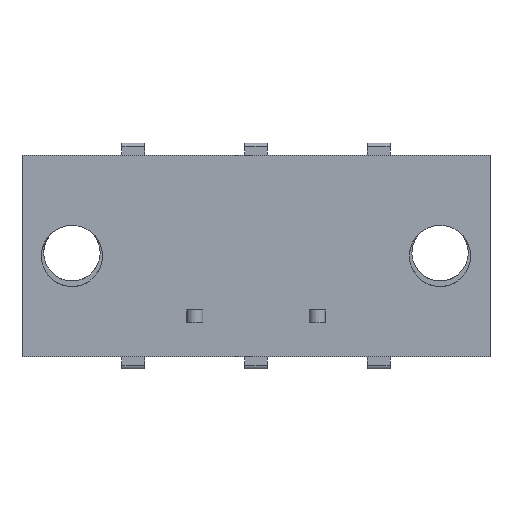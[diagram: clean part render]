
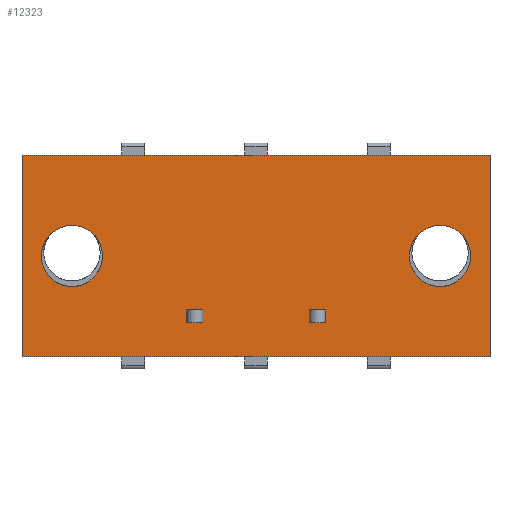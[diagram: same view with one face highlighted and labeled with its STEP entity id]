
A CAD part, front view. The second image highlights one B-rep face of the part: STEP entity #12323.
In plain terms, the highlighted planar face has unit normal (0, -1, 0).
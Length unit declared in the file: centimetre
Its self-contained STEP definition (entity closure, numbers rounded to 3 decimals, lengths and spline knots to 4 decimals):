
#587=PLANE('',#20139);
#1012=CIRCLE('',#19882,0.19);
#1102=CIRCLE('',#20140,0.19);
#1109=VERTEX_POINT('',#14927);
#1110=VERTEX_POINT('',#14928);
#1117=VERTEX_POINT('',#14944);
#1131=VERTEX_POINT('',#14975);
#1636=VERTEX_POINT('',#17036);
#1637=VERTEX_POINT('',#17038);
#1638=VERTEX_POINT('',#17042);
#1903=VERTEX_POINT('',#17929);
#1904=VERTEX_POINT('',#17930);
#1907=VERTEX_POINT('',#17938);
#1910=VERTEX_POINT('',#17950);
#1951=VERTEX_POINT('',#18072);
#1953=VERTEX_POINT('',#18079);
#1954=VERTEX_POINT('',#18081);
#2292=VECTOR('',#12614,1.);
#2300=VECTOR('',#12623,1.);
#2314=VECTOR('',#12641,1.);
#2317=VECTOR('',#12649,1.);
#2892=VECTOR('',#13573,1.);
#3184=VECTOR('',#14201,1.);
#3188=VECTOR('',#14206,1.);
#3192=VECTOR('',#14218,1.);
#3194=VECTOR('',#14221,1.);
#3242=VECTOR('',#14315,1.);
#3246=VECTOR('',#14322,1.);
#3247=VECTOR('',#14323,1.);
#3656=LINE('',#14926,#2292);
#3664=LINE('',#14943,#2300);
#3678=LINE('',#14974,#2314);
#3681=LINE('',#14982,#2317);
#4256=LINE('',#17037,#2892);
#4548=LINE('',#17928,#3184);
#4552=LINE('',#17937,#3188);
#4556=LINE('',#17949,#3192);
#4558=LINE('',#17953,#3194);
#4606=LINE('',#18071,#3242);
#4610=LINE('',#18080,#3246);
#4611=LINE('',#18082,#3247);
#5024=EDGE_CURVE('',#1109,#1110,#3656,.T.);
#5032=EDGE_CURVE('',#1117,#1109,#3664,.T.);
#5047=EDGE_CURVE('',#1110,#1131,#3678,.T.);
#5051=EDGE_CURVE('',#1131,#1117,#3681,.T.);
#5813=EDGE_CURVE('',#1637,#1636,#4256,.T.);
#5815=EDGE_CURVE('',#1638,#1638,#1012,.T.);
#6218=EDGE_CURVE('',#1903,#1904,#4548,.T.);
#6222=EDGE_CURVE('',#1907,#1903,#4552,.T.);
#6228=EDGE_CURVE('',#1910,#1907,#4556,.T.);
#6230=EDGE_CURVE('',#1904,#1910,#4558,.T.);
#6289=EDGE_CURVE('',#1951,#1636,#4606,.T.);
#6293=EDGE_CURVE('',#1953,#1953,#1102,.T.);
#6294=EDGE_CURVE('',#1954,#1637,#4610,.T.);
#6295=EDGE_CURVE('',#1954,#1951,#4611,.T.);
#9291=ORIENTED_EDGE('',*,*,#5032,.T.);
#9292=ORIENTED_EDGE('',*,*,#5024,.T.);
#9293=ORIENTED_EDGE('',*,*,#5047,.T.);
#9294=ORIENTED_EDGE('',*,*,#5051,.T.);
#9295=ORIENTED_EDGE('',*,*,#5815,.T.);
#9296=ORIENTED_EDGE('',*,*,#6293,.T.);
#9297=ORIENTED_EDGE('',*,*,#6222,.F.);
#9298=ORIENTED_EDGE('',*,*,#6228,.F.);
#9299=ORIENTED_EDGE('',*,*,#6230,.F.);
#9300=ORIENTED_EDGE('',*,*,#6218,.F.);
#9301=ORIENTED_EDGE('',*,*,#6294,.T.);
#9302=ORIENTED_EDGE('',*,*,#5813,.T.);
#9303=ORIENTED_EDGE('',*,*,#6289,.F.);
#9304=ORIENTED_EDGE('',*,*,#6295,.F.);
#10895=EDGE_LOOP('',(#9291,#9292,#9293,#9294));
#10896=EDGE_LOOP('',(#9295));
#10897=EDGE_LOOP('',(#9296));
#10898=EDGE_LOOP('',(#9297,#9298,#9299,#9300));
#10899=EDGE_LOOP('',(#9301,#9302,#9303,#9304));
#11629=FACE_BOUND('',#10895,.T.);
#11630=FACE_BOUND('',#10896,.T.);
#11631=FACE_BOUND('',#10897,.T.);
#11632=FACE_BOUND('',#10898,.T.);
#11633=FACE_BOUND('',#10899,.T.);
#12323=ADVANCED_FACE('',(#11629,#11630,#11631,#11632,#11633),#587,.T.);
#12614=DIRECTION('',(0.,0.,1.));
#12623=DIRECTION('',(-1.,0.,0.));
#12641=DIRECTION('',(1.,0.,0.));
#12649=DIRECTION('',(0.,0.,-1.));
#13573=DIRECTION('',(0.,0.,1.));
#13577=DIRECTION('',(0.,1.,0.));
#13578=DIRECTION('',(0.19,0.,0.));
#14201=DIRECTION('',(0.,0.,1.));
#14206=DIRECTION('',(1.,0.,0.));
#14218=DIRECTION('',(0.,0.,-1.));
#14221=DIRECTION('',(-1.,0.,0.));
#14315=DIRECTION('',(1.,0.,0.));
#14319=DIRECTION('',(0.,-1.,0.));
#14320=DIRECTION('',(0.,1.,0.));
#14321=DIRECTION('',(0.19,0.,0.));
#14322=DIRECTION('',(1.,0.,0.));
#14323=DIRECTION('',(0.,0.,1.));
#14926=CARTESIAN_POINT('',(0.712,-0.53,-0.1875));
#14927=CARTESIAN_POINT('',(0.712,-0.53,-0.415));
#14928=CARTESIAN_POINT('',(0.712,-0.53,-0.335));
#14943=CARTESIAN_POINT('',(0.155,-0.53,-0.415));
#14944=CARTESIAN_POINT('',(0.812,-0.53,-0.415));
#14974=CARTESIAN_POINT('',(0.155,-0.53,-0.335));
#14975=CARTESIAN_POINT('',(0.812,-0.53,-0.335));
#14982=CARTESIAN_POINT('',(0.812,-0.53,-0.1875));
#17036=CARTESIAN_POINT('',(1.834,-0.53,0.625));
#17037=CARTESIAN_POINT('',(1.834,-0.53,-0.625));
#17038=CARTESIAN_POINT('',(1.834,-0.53,-0.625));
#17041=CARTESIAN_POINT('',(1.524,-0.53,0.));
#17042=CARTESIAN_POINT('',(1.334,-0.53,0.));
#17928=CARTESIAN_POINT('',(0.05,-0.53,-0.1875));
#17929=CARTESIAN_POINT('',(0.05,-0.53,-0.415));
#17930=CARTESIAN_POINT('',(0.05,-0.53,-0.335));
#17937=CARTESIAN_POINT('',(-0.155,-0.53,-0.415));
#17938=CARTESIAN_POINT('',(-0.05,-0.53,-0.415));
#17949=CARTESIAN_POINT('',(-0.05,-0.53,-0.1875));
#17950=CARTESIAN_POINT('',(-0.05,-0.53,-0.335));
#17953=CARTESIAN_POINT('',(-0.155,-0.53,-0.335));
#18071=CARTESIAN_POINT('',(-1.072,-0.53,0.625));
#18072=CARTESIAN_POINT('',(-1.072,-0.53,0.625));
#18077=CARTESIAN_POINT('',(-0.452,-0.53,0.));
#18078=CARTESIAN_POINT('',(-0.762,-0.53,0.));
#18079=CARTESIAN_POINT('',(-0.952,-0.53,0.));
#18080=CARTESIAN_POINT('',(-1.072,-0.53,-0.625));
#18081=CARTESIAN_POINT('',(-1.072,-0.53,-0.625));
#18082=CARTESIAN_POINT('',(-1.072,-0.53,-0.625));
#19882=AXIS2_PLACEMENT_3D('',#17041,#13577,#13578);
#20139=AXIS2_PLACEMENT_3D('',#18077,#14319,$);
#20140=AXIS2_PLACEMENT_3D('',#18078,#14320,#14321);
